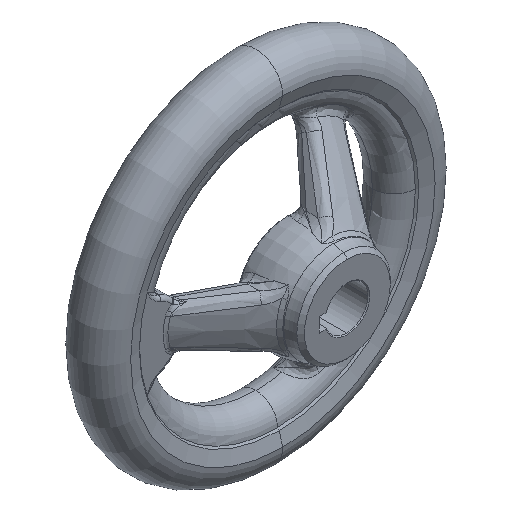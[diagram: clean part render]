
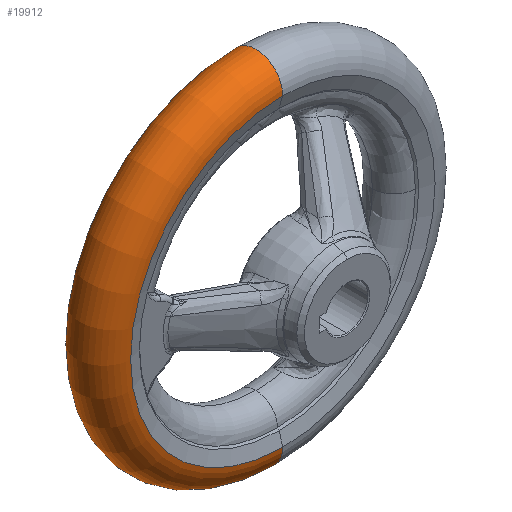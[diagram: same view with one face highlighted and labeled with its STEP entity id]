
A CAD part, isometric view. The second image highlights one B-rep face of the part: STEP entity #19912.
In plain terms, the highlighted toroidal (fillet/blend) face has major radius 42.5 mm and minor radius 7.5 mm.
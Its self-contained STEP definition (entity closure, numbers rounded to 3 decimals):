
#10006 = DIRECTION ( 'NONE',  ( 0., 0., 1. ) ) ;
#10007 = DIRECTION ( 'NONE',  ( -1., 0., 0. ) ) ;
#10008 = CARTESIAN_POINT ( 'NONE',  ( 0., 25.5, -42.5 ) ) ;
#10009 = AXIS2_PLACEMENT_3D ( 'NONE', #10008, #10007, #10006 ) ;
#10012 = CIRCLE ( 'NONE', #10009, 7.5 ) ;
#11241 = DIRECTION ( 'NONE',  ( 0., 0., -1. ) ) ;
#11242 = DIRECTION ( 'NONE',  ( 0., -1., 0. ) ) ;
#11243 = CARTESIAN_POINT ( 'NONE',  ( 0., 33., 0. ) ) ;
#11244 = AXIS2_PLACEMENT_3D ( 'NONE', #11243, #11242, #11241 ) ;
#11246 = CARTESIAN_POINT ( 'NONE',  ( 0., 18., 42.5 ) ) ;
#11253 = CARTESIAN_POINT ( 'NONE',  ( 0., 33., 42.5 ) ) ;
#11254 = CIRCLE ( 'NONE', #11244, 42.5 ) ;
#11268 = CARTESIAN_POINT ( 'NONE',  ( 0., 18., -42.5 ) ) ;
#11537 = CARTESIAN_POINT ( 'NONE',  ( 0., 33., -42.5 ) ) ;
#17986 = EDGE_CURVE ( 'NONE', #19465, #19474, #19113, .T. ) ;
#17988 = EDGE_CURVE ( 'NONE', #19474, #19473, #19163, .T. ) ;
#19113 = CIRCLE ( 'NONE', #19160, 7.5 ) ;
#19146 = DIRECTION ( 'NONE',  ( 0., 0., -1. ) ) ;
#19150 = DIRECTION ( 'NONE',  ( 0., -1., 0. ) ) ;
#19151 = DIRECTION ( 'NONE',  ( 0., 0., -1. ) ) ;
#19152 = DIRECTION ( 'NONE',  ( 1., 0., 0. ) ) ;
#19153 = AXIS2_PLACEMENT_3D ( 'NONE', #19154, #19150, #19146 ) ;
#19154 = CARTESIAN_POINT ( 'NONE',  ( 0., 18., 0. ) ) ;
#19160 = AXIS2_PLACEMENT_3D ( 'NONE', #19167, #19152, #19151 ) ;
#19163 = CIRCLE ( 'NONE', #19153, 42.5 ) ;
#19167 = CARTESIAN_POINT ( 'NONE',  ( 0., 25.5, 42.5 ) ) ;
#19272 = EDGE_CURVE ( 'NONE', #19544, #19473, #10012, .T. ) ;
#19465 = VERTEX_POINT ( 'NONE', #11253 ) ;
#19466 = EDGE_CURVE ( 'NONE', #19465, #19544, #11254, .T. ) ;
#19473 = VERTEX_POINT ( 'NONE', #11268 ) ;
#19474 = VERTEX_POINT ( 'NONE', #11246 ) ;
#19544 = VERTEX_POINT ( 'NONE', #11537 ) ;
#19873 = ORIENTED_EDGE ( 'NONE', *, *, #17988, .F. ) ;
#19875 = ORIENTED_EDGE ( 'NONE', *, *, #19466, .T. ) ;
#19912 = ADVANCED_FACE ( 'NONE', ( #21911 ), #21860, .T. ) ;
#19967 = ORIENTED_EDGE ( 'NONE', *, *, #19272, .T. ) ;
#20065 = EDGE_LOOP ( 'NONE', ( #20082, #19875, #19967, #19873 ) ) ;
#20082 = ORIENTED_EDGE ( 'NONE', *, *, #17986, .F. ) ;
#21860 = TOROIDAL_SURFACE ( 'NONE', #21908, 42.5, 7.5 ) ;
#21908 = AXIS2_PLACEMENT_3D ( 'NONE', #21960, #21956, #21955 ) ;
#21911 = FACE_OUTER_BOUND ( 'NONE', #20065, .T. ) ;
#21955 = DIRECTION ( 'NONE',  ( 0., 0., -1. ) ) ;
#21956 = DIRECTION ( 'NONE',  ( 0., -1., 0. ) ) ;
#21960 = CARTESIAN_POINT ( 'NONE',  ( 0., 25.5, 0. ) ) ;
